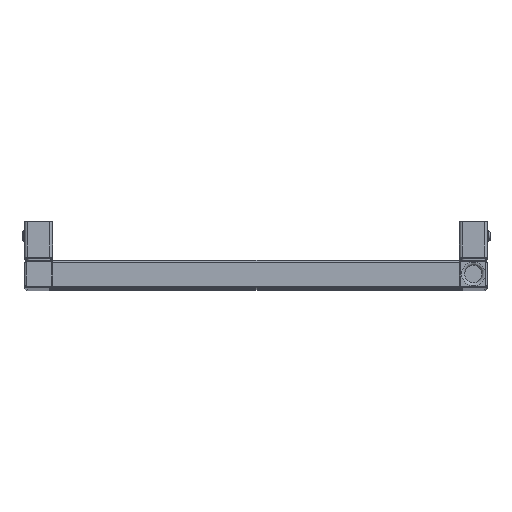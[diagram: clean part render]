
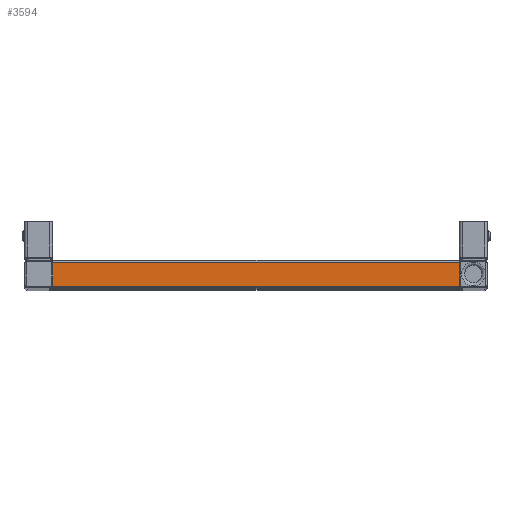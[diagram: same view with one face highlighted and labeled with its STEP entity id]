
A CAD part, top view. The second image highlights one B-rep face of the part: STEP entity #3594.
In plain terms, the highlighted planar face has unit normal (0, 0, 1).
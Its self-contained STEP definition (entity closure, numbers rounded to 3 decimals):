
#3519=CARTESIAN_POINT('',(0.0,-13.,1635.0));
#3520=DIRECTION('',(0.0,0.0,1.0));
#3521=DIRECTION('',(1.0,0.0,0.0));
#3522=AXIS2_PLACEMENT_3D('',#3519,#3520,#3521);
#3523=PLANE('',#3522);
#3524=CARTESIAN_POINT('',(220.172,13.,1635.0));
#3525=VERTEX_POINT('',#3524);
#3526=CARTESIAN_POINT('',(220.,12.,1635.0));
#3527=VERTEX_POINT('',#3526);
#3528=CARTESIAN_POINT('',(223.,12.,1635.0));
#3529=DIRECTION('',(0.0,0.0,1.0));
#3530=DIRECTION('',(0.0,1.0,0.0));
#3531=AXIS2_PLACEMENT_3D('',#3528,#3529,#3530);
#3532=CIRCLE('',#3531,3.);
#3533=EDGE_CURVE('',#3525,#3527,#3532,.T.);
#3534=ORIENTED_EDGE('',*,*,#3533,.F.);
#3535=CARTESIAN_POINT('',(-220.172,13.,1635.0));
#3536=VERTEX_POINT('',#3535);
#3537=CARTESIAN_POINT('',(220.172,13.,1635.0));
#3538=DIRECTION('',(-1.0,0.0,0.0));
#3539=VECTOR('',#3538,440.343);
#3540=LINE('',#3537,#3539);
#3541=EDGE_CURVE('',#3525,#3536,#3540,.T.);
#3542=ORIENTED_EDGE('',*,*,#3541,.T.);
#3543=CARTESIAN_POINT('',(-220.,12.,1635.0));
#3544=VERTEX_POINT('',#3543);
#3545=CARTESIAN_POINT('',(-223.,12.,1635.0));
#3546=DIRECTION('',(0.0,0.0,1.0));
#3547=DIRECTION('',(1.0,0.0,0.0));
#3548=AXIS2_PLACEMENT_3D('',#3545,#3546,#3547);
#3549=CIRCLE('',#3548,3.);
#3550=EDGE_CURVE('',#3544,#3536,#3549,.T.);
#3551=ORIENTED_EDGE('',*,*,#3550,.F.);
#3552=CARTESIAN_POINT('',(-220.,-12.,1635.0));
#3553=VERTEX_POINT('',#3552);
#3554=CARTESIAN_POINT('',(-220.,-12.,1635.0));
#3555=DIRECTION('',(0.0,1.0,0.0));
#3556=VECTOR('',#3555,24.);
#3557=LINE('',#3554,#3556);
#3558=EDGE_CURVE('',#3553,#3544,#3557,.T.);
#3559=ORIENTED_EDGE('',*,*,#3558,.F.);
#3560=CARTESIAN_POINT('',(-220.172,-13.,1635.0));
#3561=VERTEX_POINT('',#3560);
#3562=CARTESIAN_POINT('',(-223.,-12.,1635.0));
#3563=DIRECTION('',(0.0,0.0,1.0));
#3564=DIRECTION('',(0.0,-1.0,0.0));
#3565=AXIS2_PLACEMENT_3D('',#3562,#3563,#3564);
#3566=CIRCLE('',#3565,3.0);
#3567=EDGE_CURVE('',#3561,#3553,#3566,.T.);
#3568=ORIENTED_EDGE('',*,*,#3567,.F.);
#3569=CARTESIAN_POINT('',(220.172,-13.,1635.0));
#3570=VERTEX_POINT('',#3569);
#3571=CARTESIAN_POINT('',(220.172,-13.,1635.0));
#3572=DIRECTION('',(-1.0,0.0,0.0));
#3573=VECTOR('',#3572,440.343);
#3574=LINE('',#3571,#3573);
#3575=EDGE_CURVE('',#3570,#3561,#3574,.T.);
#3576=ORIENTED_EDGE('',*,*,#3575,.F.);
#3577=CARTESIAN_POINT('',(220.,-12.,1635.0));
#3578=VERTEX_POINT('',#3577);
#3579=CARTESIAN_POINT('',(223.,-12.,1635.0));
#3580=DIRECTION('',(0.0,0.0,1.0));
#3581=DIRECTION('',(-1.0,0.0,0.0));
#3582=AXIS2_PLACEMENT_3D('',#3579,#3580,#3581);
#3583=CIRCLE('',#3582,3.0);
#3584=EDGE_CURVE('',#3578,#3570,#3583,.T.);
#3585=ORIENTED_EDGE('',*,*,#3584,.F.);
#3586=CARTESIAN_POINT('',(220.,12.,1635.0));
#3587=DIRECTION('',(0.0,-1.0,0.0));
#3588=VECTOR('',#3587,24.);
#3589=LINE('',#3586,#3588);
#3590=EDGE_CURVE('',#3527,#3578,#3589,.T.);
#3591=ORIENTED_EDGE('',*,*,#3590,.F.);
#3592=EDGE_LOOP('',(#3534,#3542,#3551,#3559,#3568,#3576,#3585,#3591));
#3593=FACE_OUTER_BOUND('',#3592,.T.);
#3594=ADVANCED_FACE('',(#3593),#3523,.T.);
